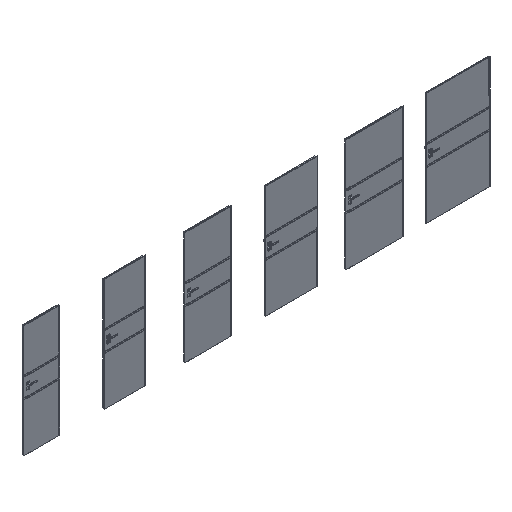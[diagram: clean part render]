
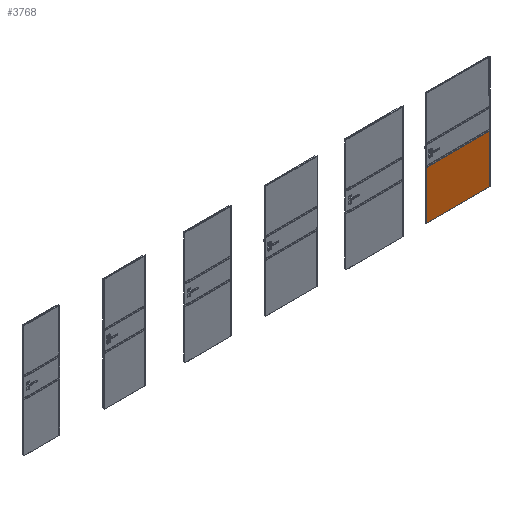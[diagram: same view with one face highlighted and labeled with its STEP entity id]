
A CAD part, isometric view. The second image highlights one B-rep face of the part: STEP entity #3768.
In plain terms, the highlighted planar face has unit normal (0, -1, 0).
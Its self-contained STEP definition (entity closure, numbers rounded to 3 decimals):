
#3768=ADVANCED_FACE('',(#6216),#4912,.F.);
#4912=PLANE('',#27317);
#6216=FACE_OUTER_BOUND('',#7800,.T.);
#7800=EDGE_LOOP('',(#13531,#13532,#13533,#13534));
#13531=ORIENTED_EDGE('',*,*,#20061,.F.);
#13532=ORIENTED_EDGE('',*,*,#20062,.T.);
#13533=ORIENTED_EDGE('',*,*,#20063,.T.);
#13534=ORIENTED_EDGE('',*,*,#20064,.F.);
#16891=VERTEX_POINT('',#45607);
#16892=VERTEX_POINT('',#45608);
#16893=VERTEX_POINT('',#45610);
#16894=VERTEX_POINT('',#45612);
#20061=EDGE_CURVE('',#16891,#16892,#22857,.T.);
#20062=EDGE_CURVE('',#16891,#16893,#22858,.T.);
#20063=EDGE_CURVE('',#16893,#16894,#22859,.T.);
#20064=EDGE_CURVE('',#16892,#16894,#22860,.T.);
#22857=LINE('',#45606,#25293);
#22858=LINE('',#45609,#25294);
#22859=LINE('',#45611,#25295);
#22860=LINE('',#45613,#25296);
#25293=VECTOR('',#32886,1.);
#25294=VECTOR('',#32887,1.);
#25295=VECTOR('',#32888,1.);
#25296=VECTOR('',#32889,1.);
#27317=AXIS2_PLACEMENT_3D('',#45614,#32890,#32891);
#32886=DIRECTION('',(1.,0.,0.));
#32887=DIRECTION('',(0.,0.,-1.));
#32888=DIRECTION('',(1.,0.,0.));
#32889=DIRECTION('',(0.,0.,-1.));
#32890=DIRECTION('',(0.,1.,0.));
#32891=DIRECTION('',(-1.,0.,0.));
#45606=CARTESIAN_POINT('',(8072.,-39.3,870.));
#45607=CARTESIAN_POINT('',(6928.,-39.3,870.));
#45608=CARTESIAN_POINT('',(8072.,-39.3,870.));
#45609=CARTESIAN_POINT('',(6928.,-39.3,2030.));
#45610=CARTESIAN_POINT('',(6928.,-39.3,2.));
#45611=CARTESIAN_POINT('',(7178.,-39.3,2.));
#45612=CARTESIAN_POINT('',(8072.,-39.3,2.));
#45613=CARTESIAN_POINT('',(8072.,-39.3,2030.));
#45614=CARTESIAN_POINT('',(7178.,-39.3,2030.));
